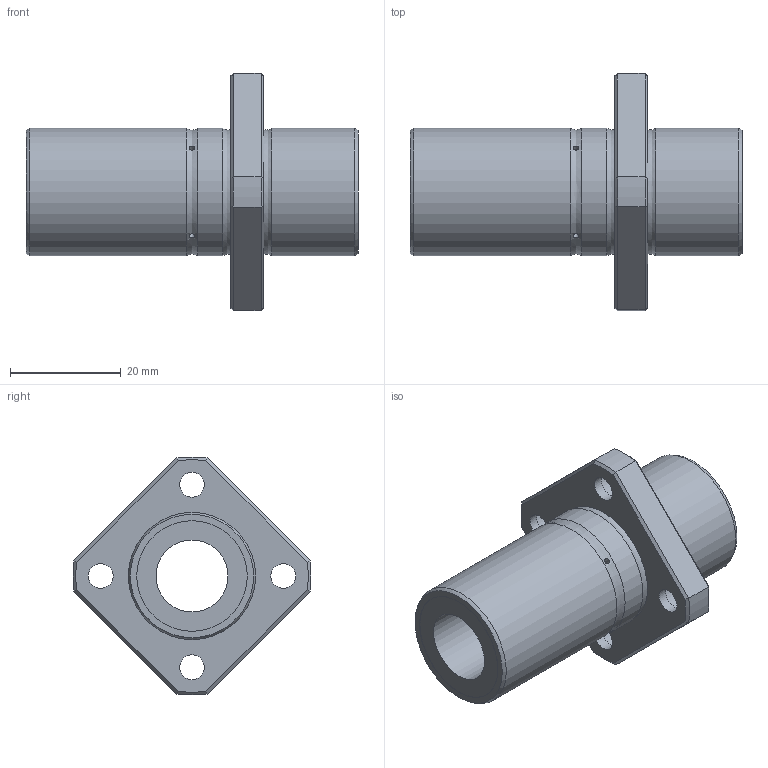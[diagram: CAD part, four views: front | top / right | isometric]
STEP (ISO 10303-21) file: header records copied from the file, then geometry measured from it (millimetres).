
FILE_DESCRIPTION((''),'2;1');
FILE_NAME('D:\製品 (図面)\カタログ用3D\リニアベアリング関連\STEP形式\LFDK-OH\LFDK13-OH.stp','2010-06-03T09:40:55',('Tsuchiya'),(''),'Autodesk Inventor 10','Autodesk Inventor 10','');
FILE_SCHEMA(('AUTOMOTIVE_DESIGN { 1 0 10303 214 1 1 1 1 }'));
Length unit declared in the file: millimetre
Products named in the file (1): LFDK13-OH
Bounding box: 60 x 42.96 x 42.96 mm (x, y, z)
Volume: 20109.6 mm3; surface area: 9456.5 mm2
Topology: 1 solids, 1 shells, 61 faces, 123 edges, 76 vertices
Faces by surface type: bspline 19, plane 18, cylinder 14, cone 8, torus 2
Full cylindrical faces by diameter (mm): 13 x1, 20 x2, 23 x3
Entity records: 2119 total; most frequent: CARTESIAN_POINT 996, DIRECTION 206, ORIENTED_EDGE 192, EDGE_LOOP 106, EDGE_CURVE 96, AXIS2_PLACEMENT_3D 91, VERTEX_POINT 72, FACE_OUTER_BOUND 61
